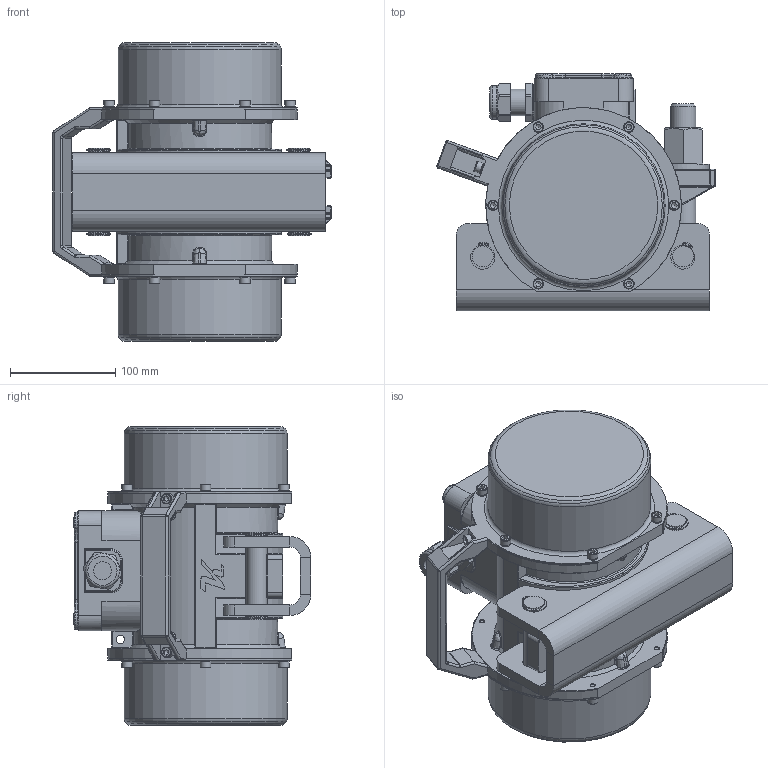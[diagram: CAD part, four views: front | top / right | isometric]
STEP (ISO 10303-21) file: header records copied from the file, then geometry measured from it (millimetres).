
FILE_DESCRIPTION(/* description */ (''),/* implementation_level */ '2;1');
FILE_NAME(/* name */ 'PSV MOTORLAR.stp',/* time_stamp */ '2026-09-09T17:12:21+03:00',/* author */ ('PC'),/* organization */ (''),/* preprocessor_version */ 'ST-DEVELOPER v20.1',/* originating_system */ 'Autodesk Inventor 2026',/* authorisation */ '');
FILE_SCHEMA (('AUTOMOTIVE_DESIGN { 1 0 10303 214 3 1 1 }'));
Products named in the file (1): PSV 80x3 6304 2Z RULMAN
Bounding box: 264.43 x 226.04 x 284 mm (x, y, z)
Volume: 6443521.6 mm3; surface area: 427151.9 mm2
Topology: 3 solids, 47 shells, 4013 faces, 10438 edges, 6770 vertices
Faces by surface type: plane 2116, bspline 1122, cylinder 453, torus 200, cone 98, sphere 24
Full cylindrical faces by diameter (mm): 2 x8, 5 x24, 6 x21, 6.4 x18, 6.5 x16, 8 x1, 10 x18, 10.5 x4, 17 x1, 18.02 x1, 19 x4, 20 x6, 21 x4, 21.5 x1, 24 x2, 25 x1, 28.9 x1, 30 x1, 32.19 x1, 50 x1, 128 x1, 148.3 x4, 151.5 x2, 152 x2, 155 x2
Entity records: 155767 total; most frequent: CARTESIAN_POINT 63203, ORIENTED_EDGE 20740, DIRECTION 15182, EDGE_CURVE 10370, VERTEX_POINT 6774, LINE 6362, VECTOR 6362, EDGE_LOOP 4433
